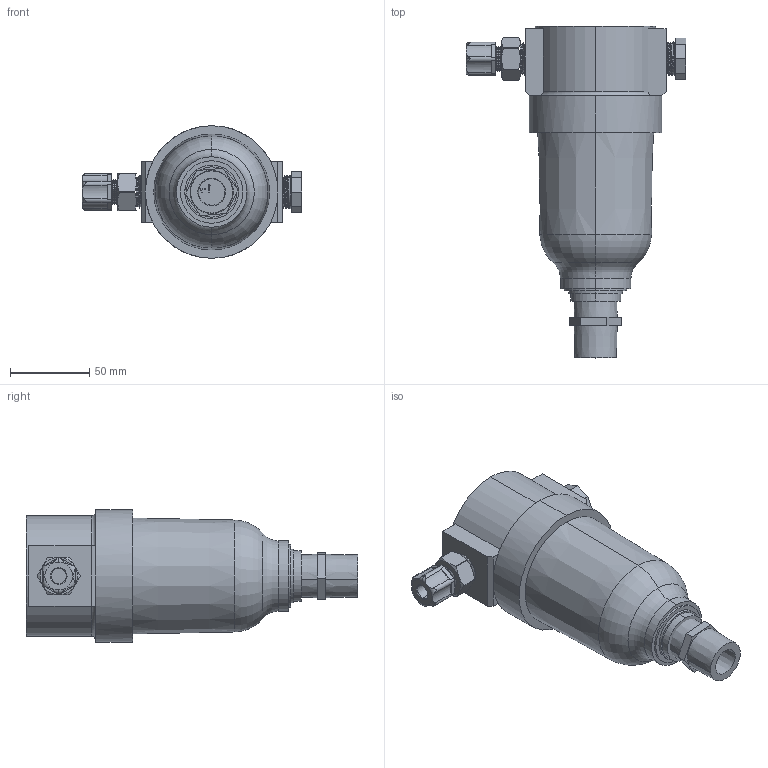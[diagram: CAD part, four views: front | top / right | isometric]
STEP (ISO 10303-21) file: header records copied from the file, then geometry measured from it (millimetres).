
FILE_DESCRIPTION (( 'STEP AP214' ), '1' );
FILE_NAME ('9-1144-02.STEP', '2018-07-25T15:51:30', ( '' ), ( '' ), 'SwSTEP 2.0', 'SolidWorks 2017', '' );
FILE_SCHEMA (( 'AUTOMOTIVE_DESIGN' ));
Length unit declared in the file: inch
Products named in the file (1): 9-1144-02
Bounding box: 138.97 x 209.74 x 83.82 mm (x, y, z)
Surface area: 64909.3 mm2 (no closed solid volume)
Topology: 0 solids, 7 shells, 284 faces, 900 edges, 621 vertices
Faces by surface type: plane 111, cylinder 80, cone 68, bspline 16, torus 9
Entity records: 24320 total; most frequent: CARTESIAN_POINT 13285, ORIENTED_EDGE 1537, DIRECTION 1327, EDGE_CURVE 900, VERTEX_POINT 621, VECTOR 469, LINE 469, AXIS2_PLACEMENT_3D 429
